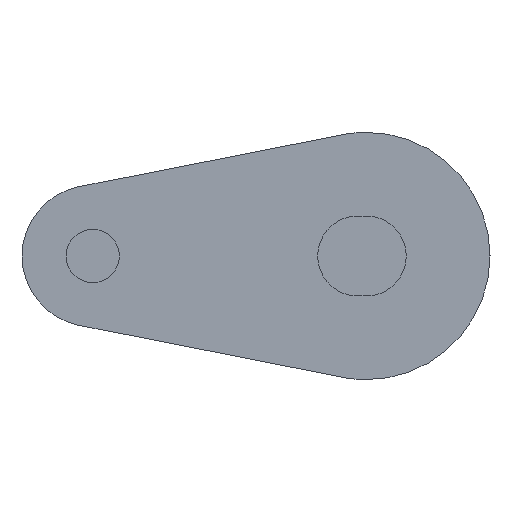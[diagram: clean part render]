
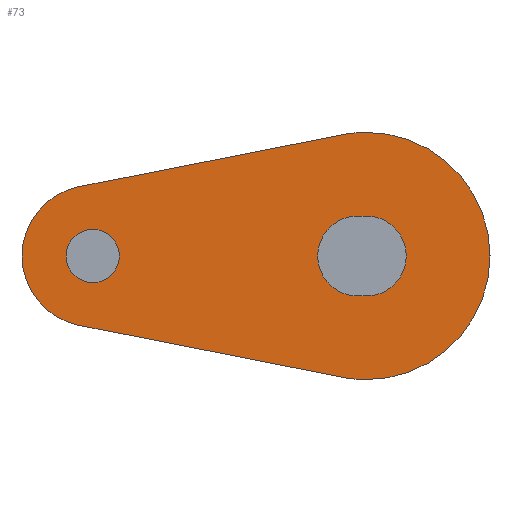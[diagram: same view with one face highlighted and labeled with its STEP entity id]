
A CAD part, left-side view. The second image highlights one B-rep face of the part: STEP entity #73.
In plain terms, the highlighted planar face has unit normal (-1, 0, 0).
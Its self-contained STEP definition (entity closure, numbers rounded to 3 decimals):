
#13 = VECTOR ( 'NONE', #759, 1000. ) ;
#18 = LINE ( 'NONE', #760, #13 ) ;
#30 = CIRCLE ( 'NONE', #382, 7. ) ;
#41 = VECTOR ( 'NONE', #989, 1000. ) ;
#44 = VECTOR ( 'NONE', #869, 1000. ) ;
#45 = CIRCLE ( 'NONE', #438, 1.51 ) ;
#46 = LINE ( 'NONE', #886, #44 ) ;
#73 = ADVANCED_FACE ( 'NONE', ( #534, #537, #528 ), #139, .T. ) ;
#93 = CARTESIAN_POINT ( 'NONE',  ( -482.5, 1.355, -6.868 ) ) ;
#136 = DIRECTION ( 'NONE',  ( 0., 0., -1. ) ) ;
#137 = DIRECTION ( 'NONE',  ( -1., 0., 0. ) ) ;
#138 = CARTESIAN_POINT ( 'NONE',  ( -482.5, 15.5, 0. ) ) ;
#139 = PLANE ( 'NONE',  #362 ) ;
#172 = VERTEX_POINT ( 'NONE', #93 ) ;
#180 = VERTEX_POINT ( 'NONE', #900 ) ;
#183 = VERTEX_POINT ( 'NONE', #929 ) ;
#184 = VERTEX_POINT ( 'NONE', #930 ) ;
#185 = VERTEX_POINT ( 'NONE', #931 ) ;
#186 = VERTEX_POINT ( 'NONE', #932 ) ;
#187 = VERTEX_POINT ( 'NONE', #933 ) ;
#199 = VERTEX_POINT ( 'NONE', #936 ) ;
#200 = VERTEX_POINT ( 'NONE', #938 ) ;
#212 = VERTEX_POINT ( 'NONE', #924 ) ;
#236 = VERTEX_POINT ( 'NONE', #987 ) ;
#270 = VERTEX_POINT ( 'NONE', #939 ) ;
#301 = EDGE_CURVE ( 'NONE', #185, #183, #507, .T. ) ;
#305 = EDGE_CURVE ( 'NONE', #199, #172, #502, .T. ) ;
#321 = AXIS2_PLACEMENT_3D ( 'NONE', #817, #801, #800 ) ;
#333 = AXIS2_PLACEMENT_3D ( 'NONE', #854, #852, #851 ) ;
#338 = EDGE_CURVE ( 'NONE', #172, #212, #18, .T. ) ;
#341 = AXIS2_PLACEMENT_3D ( 'NONE', #934, #898, #897 ) ;
#349 = AXIS2_PLACEMENT_3D ( 'NONE', #848, #837, #836 ) ;
#362 = AXIS2_PLACEMENT_3D ( 'NONE', #138, #137, #136 ) ;
#367 = EDGE_CURVE ( 'NONE', #186, #184, #489, .T. ) ;
#373 = EDGE_CURVE ( 'NONE', #200, #199, #30, .T. ) ;
#382 = AXIS2_PLACEMENT_3D ( 'NONE', #977, #976, #975 ) ;
#392 = EDGE_CURVE ( 'NONE', #236, #200, #1065, .T. ) ;
#400 = EDGE_CURVE ( 'NONE', #187, #180, #45, .T. ) ;
#401 = EDGE_CURVE ( 'NONE', #270, #236, #46, .T. ) ;
#408 = EDGE_CURVE ( 'NONE', #180, #187, #1044, .T. ) ;
#417 = EDGE_CURVE ( 'NONE', #212, #270, #1047, .T. ) ;
#426 = AXIS2_PLACEMENT_3D ( 'NONE', #868, #865, #864 ) ;
#438 = AXIS2_PLACEMENT_3D ( 'NONE', #877, #875, #871 ) ;
#439 = EDGE_CURVE ( 'NONE', #183, #186, #1028, .T. ) ;
#448 = EDGE_CURVE ( 'NONE', #184, #185, #1017, .T. ) ;
#453 = AXIS2_PLACEMENT_3D ( 'NONE', #799, #782, #781 ) ;
#489 = LINE ( 'NONE', #993, #41 ) ;
#502 = CIRCLE ( 'NONE', #426, 7. ) ;
#507 = LINE ( 'NONE', #894, #509 ) ;
#509 = VECTOR ( 'NONE', #872, 1000. ) ;
#528 = FACE_OUTER_BOUND ( 'NONE', #599, .T. ) ;
#534 = FACE_BOUND ( 'NONE', #603, .T. ) ;
#537 = FACE_BOUND ( 'NONE', #600, .T. ) ;
#599 = EDGE_LOOP ( 'NONE', ( #645, #646, #649, #647, #653, #642 ) ) ;
#600 = EDGE_LOOP ( 'NONE', ( #640, #621 ) ) ;
#603 = EDGE_LOOP ( 'NONE', ( #638, #632, #629, #626 ) ) ;
#621 = ORIENTED_EDGE ( 'NONE', *, *, #408, .T. ) ;
#626 = ORIENTED_EDGE ( 'NONE', *, *, #367, .T. ) ;
#629 = ORIENTED_EDGE ( 'NONE', *, *, #439, .T. ) ;
#632 = ORIENTED_EDGE ( 'NONE', *, *, #301, .T. ) ;
#638 = ORIENTED_EDGE ( 'NONE', *, *, #448, .T. ) ;
#640 = ORIENTED_EDGE ( 'NONE', *, *, #400, .T. ) ;
#642 = ORIENTED_EDGE ( 'NONE', *, *, #401, .F. ) ;
#645 = ORIENTED_EDGE ( 'NONE', *, *, #417, .F. ) ;
#646 = ORIENTED_EDGE ( 'NONE', *, *, #338, .F. ) ;
#647 = ORIENTED_EDGE ( 'NONE', *, *, #373, .F. ) ;
#649 = ORIENTED_EDGE ( 'NONE', *, *, #305, .F. ) ;
#653 = ORIENTED_EDGE ( 'NONE', *, *, #392, .F. ) ;
#759 = DIRECTION ( 'NONE',  ( 0., 0.981, 0.194 ) ) ;
#760 = CARTESIAN_POINT ( 'NONE',  ( -482.5, 1.355, -6.868 ) ) ;
#781 = DIRECTION ( 'NONE',  ( 0., 0., -1. ) ) ;
#782 = DIRECTION ( 'NONE',  ( 1., 0., 0. ) ) ;
#799 = CARTESIAN_POINT ( 'NONE',  ( -482.5, 0.5, 0. ) ) ;
#800 = DIRECTION ( 'NONE',  ( 0., 0., -1. ) ) ;
#801 = DIRECTION ( 'NONE',  ( 1., 0., 0. ) ) ;
#817 = CARTESIAN_POINT ( 'NONE',  ( -482.5, 0., 0. ) ) ;
#836 = DIRECTION ( 'NONE',  ( 0., 0., -1. ) ) ;
#837 = DIRECTION ( 'NONE',  ( 1., 0., 0. ) ) ;
#848 = CARTESIAN_POINT ( 'NONE',  ( -482.5, 15.5, 0. ) ) ;
#851 = DIRECTION ( 'NONE',  ( 0., 0., -1. ) ) ;
#852 = DIRECTION ( 'NONE',  ( 1., 0., 0. ) ) ;
#854 = CARTESIAN_POINT ( 'NONE',  ( -482.5, 15.5, 0. ) ) ;
#864 = DIRECTION ( 'NONE',  ( 0., 0., -1. ) ) ;
#865 = DIRECTION ( 'NONE',  ( 1., 0., 0. ) ) ;
#868 = CARTESIAN_POINT ( 'NONE',  ( -482.5, 0., 0. ) ) ;
#869 = DIRECTION ( 'NONE',  ( 0., -0.981, 0.194 ) ) ;
#871 = DIRECTION ( 'NONE',  ( 0., 0., -1. ) ) ;
#872 = DIRECTION ( 'NONE',  ( 0., -1., 0. ) ) ;
#875 = DIRECTION ( 'NONE',  ( 1., 0., 0. ) ) ;
#877 = CARTESIAN_POINT ( 'NONE',  ( -482.5, 15.5, 0. ) ) ;
#886 = CARTESIAN_POINT ( 'NONE',  ( -482.5, 16.274, 3.924 ) ) ;
#894 = CARTESIAN_POINT ( 'NONE',  ( -482.5, 0.5, 2.26 ) ) ;
#897 = DIRECTION ( 'NONE',  ( 0., 0., -1. ) ) ;
#898 = DIRECTION ( 'NONE',  ( 1., 0., 0. ) ) ;
#900 = CARTESIAN_POINT ( 'NONE',  ( -482.5, 15.5, 1.51 ) ) ;
#924 = CARTESIAN_POINT ( 'NONE',  ( -482.5, 16.274, -3.924 ) ) ;
#929 = CARTESIAN_POINT ( 'NONE',  ( -482.5, 0., 2.26 ) ) ;
#930 = CARTESIAN_POINT ( 'NONE',  ( -482.5, 0.5, -2.26 ) ) ;
#931 = CARTESIAN_POINT ( 'NONE',  ( -482.5, 0.5, 2.26 ) ) ;
#932 = CARTESIAN_POINT ( 'NONE',  ( -482.5, 0., -2.26 ) ) ;
#933 = CARTESIAN_POINT ( 'NONE',  ( -482.5, 15.5, -1.51 ) ) ;
#934 = CARTESIAN_POINT ( 'NONE',  ( -482.5, 0., 0. ) ) ;
#936 = CARTESIAN_POINT ( 'NONE',  ( -482.5, 0., -7. ) ) ;
#938 = CARTESIAN_POINT ( 'NONE',  ( -482.5, 0., 7. ) ) ;
#939 = CARTESIAN_POINT ( 'NONE',  ( -482.5, 16.274, 3.924 ) ) ;
#975 = DIRECTION ( 'NONE',  ( 0., 0., -1. ) ) ;
#976 = DIRECTION ( 'NONE',  ( 1., 0., 0. ) ) ;
#977 = CARTESIAN_POINT ( 'NONE',  ( -482.5, 0., 0. ) ) ;
#987 = CARTESIAN_POINT ( 'NONE',  ( -482.5, 1.355, 6.868 ) ) ;
#989 = DIRECTION ( 'NONE',  ( 0., 1., 0. ) ) ;
#993 = CARTESIAN_POINT ( 'NONE',  ( -482.5, 0.5, -2.26 ) ) ;
#1017 = CIRCLE ( 'NONE', #453, 2.26 ) ;
#1028 = CIRCLE ( 'NONE', #321, 2.26 ) ;
#1044 = CIRCLE ( 'NONE', #333, 1.51 ) ;
#1047 = CIRCLE ( 'NONE', #349, 4. ) ;
#1065 = CIRCLE ( 'NONE', #341, 7. ) ;
